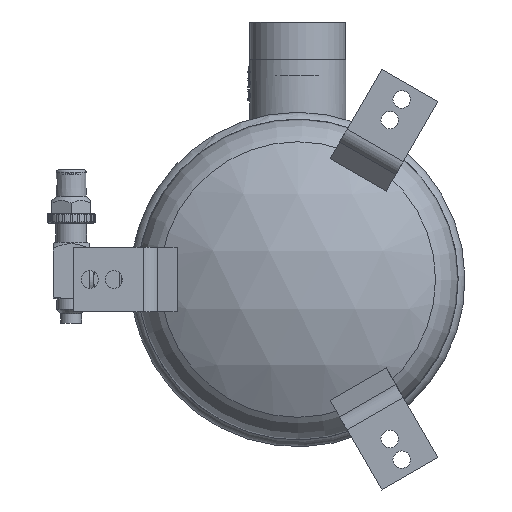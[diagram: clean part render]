
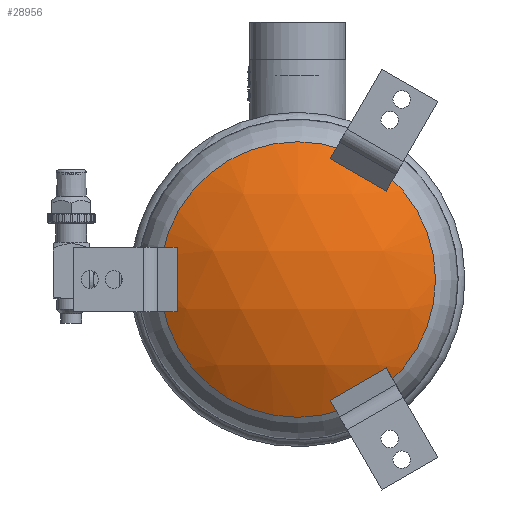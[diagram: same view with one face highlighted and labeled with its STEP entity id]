
A CAD part, front view. The second image highlights one B-rep face of the part: STEP entity #28956.
In plain terms, the highlighted spherical face has radius 159 mm.
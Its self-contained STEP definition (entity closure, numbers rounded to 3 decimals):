
#217=SPHERICAL_SURFACE('',#30234,159.);
#3757=CIRCLE('',#30232,85.047);
#5352=FACE_OUTER_BOUND('',#7191,.T.);
#7191=EDGE_LOOP('',(#25572));
#13434=VERTEX_POINT('',#211043);
#17551=EDGE_CURVE('',#13434,#13434,#3757,.T.);
#25572=ORIENTED_EDGE('',*,*,#17551,.T.);
#28956=ADVANCED_FACE('',(#5352),#217,.T.);
#30232=AXIS2_PLACEMENT_3D('',#211044,#34258,#34259);
#30234=AXIS2_PLACEMENT_3D('',#211046,#34262,#34263);
#34258=DIRECTION('center_axis',(0.,-1.,0.));
#34259=DIRECTION('ref_axis',(-1.,0.,0.));
#34262=DIRECTION('center_axis',(0.,0.,
-1.));
#34263=DIRECTION('ref_axis',(1.,0.,0.));
#211043=CARTESIAN_POINT('',(-85.047,-303.843,0.));
#211044=CARTESIAN_POINT('Origin',(0.,-303.843,
0.));
#211046=CARTESIAN_POINT('Origin',(0.,-169.5,0.));
